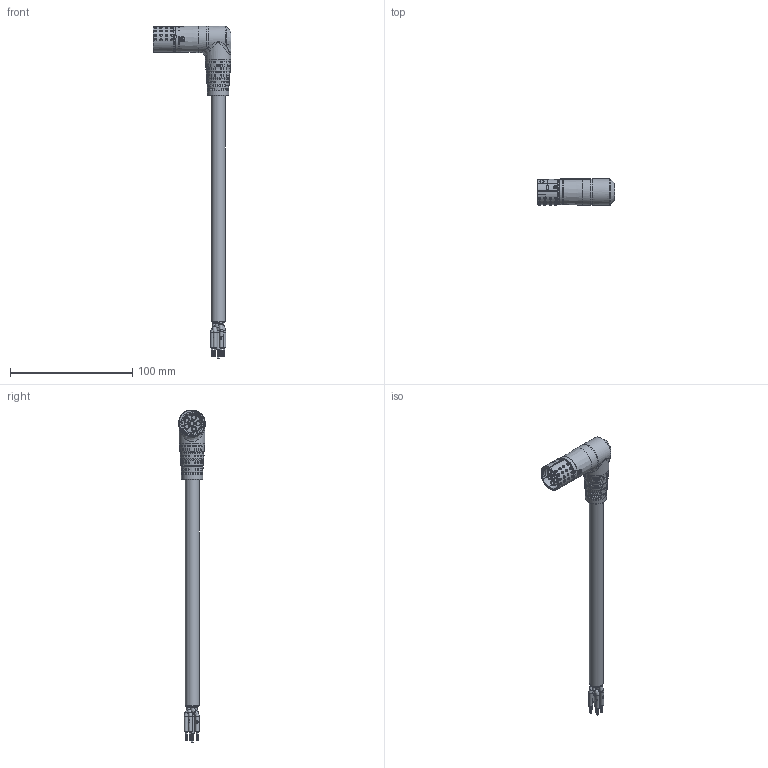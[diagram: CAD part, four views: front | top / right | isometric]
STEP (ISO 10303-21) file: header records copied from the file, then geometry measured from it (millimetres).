
FILE_DESCRIPTION (( 'STEP AP203' ), '1' );
FILE_NAME ('1138003_W-TEC_15K_GLATT-BU-90°_R_STEP.STEP', '2023-08-28T11:43:03', ( '' ), ( '' ), 'SwSTEP 2.0', 'SolidWorks 2021', '' );
FILE_SCHEMA (( 'CONFIG_CONTROL_DESIGN' ));
Length unit declared in the file: millimetre
Products named in the file (1): 1138003_W-TEC_15K_GLATT-BU-90起R_STEP
Bounding box: 63.82 x 21.87 x 271.97 mm (x, y, z)
Surface area: 18934.4 mm2 (no closed solid volume)
Topology: 0 solids, 54 shells, 829 faces, 3006 edges, 2179 vertices
Faces by surface type: cylinder 293, bspline 279, plane 228, cone 27, torus 2
Full cylindrical faces by diameter (mm): 0.2 x172, 3.1 x17, 3.3 x6, 4 x1, 4.2 x3, 9.995 x1, 11.4 x1, 16.8 x1, 17.397 x1, 18.304 x1, 21.038 x1, 21.72 x1
Entity records: 52697 total; most frequent: CARTESIAN_POINT 31250, ORIENTED_EDGE 3976, DIRECTION 3576, EDGE_CURVE 2666, VERTEX_POINT 2122, AXIS2_PLACEMENT_3D 1536, EDGE_LOOP 1484, B_SPLINE_CURVE_WITH_KNOTS 1073
